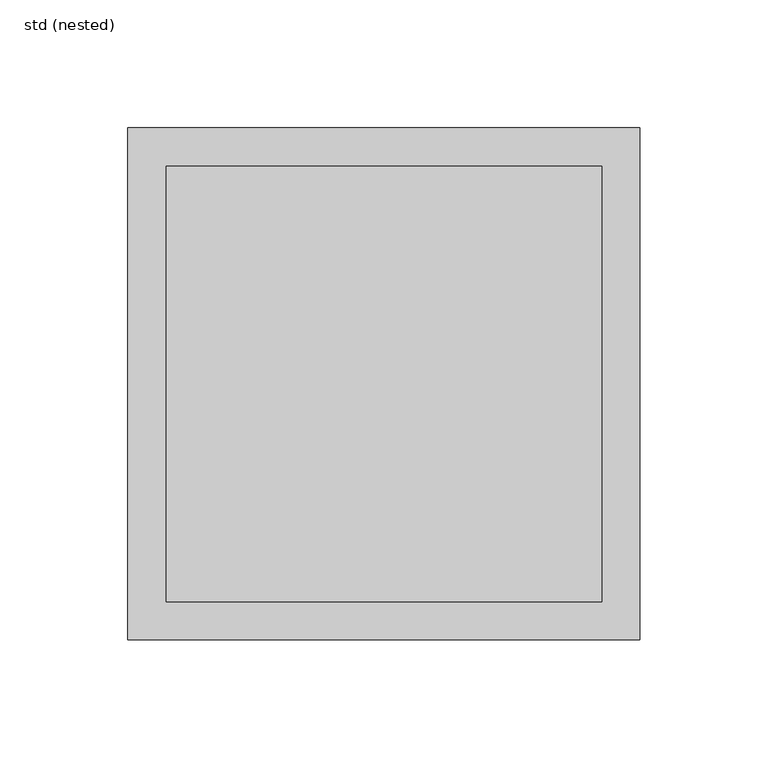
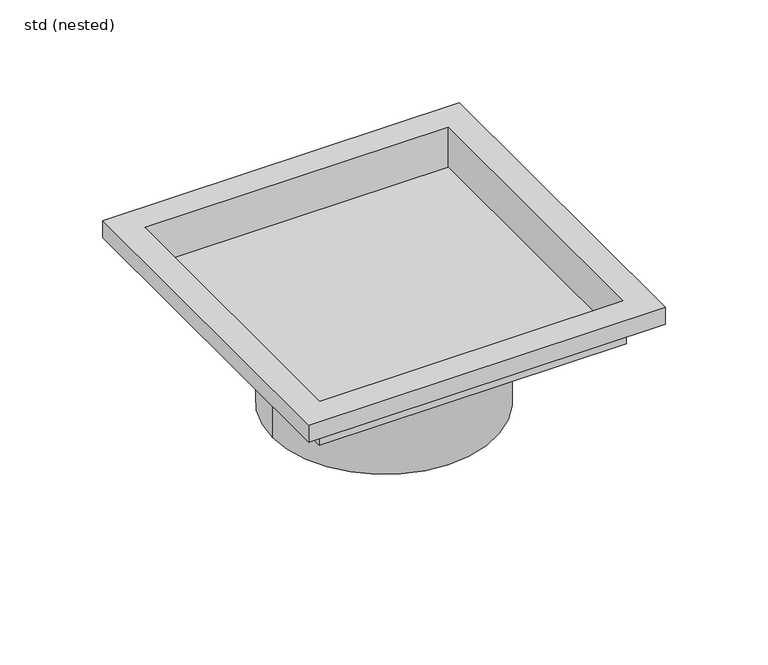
"""IFC4 building model written with IfcOpenShell, lengths in millimetres: sanitary terminal geometry, ZZZ_do not use_PF_ST_UN_telescopic gully top_ACO : std (nested)."""

from ifc_helpers import new_model, si_unit, frame, origin, place, context, project, spatial, polyline, circle_curve, faceted_brep, source, transform, mapped, element, save
from ifc_brep_helpers import plane_surface, cylinder_surface, revolved_surface, advanced_brep


def std_nested_b19227e2(model_context):
    return source(origin(), model_context, "Body", "SolidModel", [
        advanced_brep(
        [(-62.5, 0.0, -81.0), (62.5, 0.0, -81.0), (62.5, 0.0, -37.0), (-62.5, 0.0, -37.0), (-71.25, 0.0, -25.0), (71.25, 0.0, -25.0)],
        [
            (0, 1, circle_curve(frame((0.0, 0.0, -81.0), z_axis=(0.0, 0.0, -1.0), x_axis=(1.0, 0.0, 0.0)), 62.5)),
            (1, 0, circle_curve(frame((0.0, 0.0, -81.0), z_axis=(0.0, 0.0, -1.0), x_axis=(1.0, 0.0, 0.0)), 62.5)),
            (1, 2),
            (2, 3, circle_curve(frame((0.0, 0.0, -37.0), z_axis=(0.0, 0.0, -1.0), x_axis=(1.0, 0.0, 0.0)), 62.5)),
            (3, 0),
            (3, 2, circle_curve(frame((0.0, 0.0, -37.0), z_axis=(0.0, 0.0, -1.0), x_axis=(1.0, 0.0, 0.0)), 62.5)),
            (4, 5, circle_curve(frame((0.0, 0.0, -25.0), z_axis=(0.0, 0.0, 1.0), x_axis=(1.0, 0.0, 0.0)), 71.25)),
            (5, 4, circle_curve(frame((0.0, 0.0, -25.0), z_axis=(0.0, 0.0, 1.0), x_axis=(-1.0, 0.0, 0.0)), 71.25)),
            (4, 3),
            (2, 5),
        ],
        [
            plane_surface(frame((62.5, 0.0, -81.0), z_axis=(0.0, 0.0, -1.0), x_axis=(0.0, -1.0, 0.0))),
            cylinder_surface(frame((0.0, 0.0, -81.0), z_axis=(0.0, 0.0, 1.0), x_axis=(1.0, 0.0, 0.0)), 62.5),
            plane_surface(frame((0.0, 0.0, -25.0), z_axis=(0.0, 0.0, 1.0), x_axis=(0.0, -1.0, 0.0))),
            revolved_surface(polyline([(62.49999999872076, 0.0, -37.0), (71.25, 0.0, -25.0)]), (0.0, 0.0, -122.7142857), (0.0, 0.0, 1.0)),
            revolved_surface(polyline([(-62.49999999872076, 0.0, -37.0), (-71.25, 0.0, -25.0)]), (0.0, 0.0, -122.7142857), (0.0, 0.0, 1.0)),
        ],
        [
            (0, [[1, 2]]),
            (1, [[-2, 3, 4, 5]]),
            (1, [[-1, -5, 6, -3]]),
            (2, [[7, 8]]),
            (3, [[-7, 9, -4, 10]]),
            (4, [[-8, -10, -6, -9]]),
        ],
    ),
        faceted_brep([(86.25, 86.25, -25.0), (86.25, -86.25, -25.0), (-86.25, -86.25, -25.0), (-86.25, 86.25, -25.0), (85.0, -85.0, -23.75), (85.0, 85.0, -23.75), (-85.0, 85.0, -23.75), (-85.0, -85.0, -23.75), (-86.25, 86.25, -10.0), (86.25, 86.25, -10.0), (-86.25, -86.25, -10.0), (86.25, -86.25, -10.0), (85.0, -85.0, 0.0), (85.0, 85.0, 0.0), (-85.0, -85.0, 0.0), (-85.0, 85.0, 0.0), (100.0, 100.0, -10.0), (100.0, -100.0, -10.0), (-100.0, -100.0, -10.0), (-100.0, 100.0, -10.0), (100.0, 100.0, 0.0), (-100.0, 100.0, 0.0), (-100.0, -100.0, 0.0), (100.0, -100.0, 0.0)], [[[0, 1, 2, 3]], [[4, 5, 6, 7]], [[0, 3, 8, 9]], [[3, 2, 10, 8]], [[2, 1, 11, 10]], [[1, 0, 9, 11]], [[5, 4, 12, 13]], [[12, 4, 7, 14]], [[14, 7, 6, 15]], [[5, 13, 15, 6]], [[16, 17, 18, 19], [9, 8, 10, 11]], [[20, 21, 22, 23], [13, 12, 14, 15]], [[16, 19, 21, 20]], [[19, 18, 22, 21]], [[18, 17, 23, 22]], [[17, 16, 20, 23]]]),
    ])


if __name__ == "__main__":
    model = new_model("IFC4")
    model_context = context("Model", 3, world=origin())
    ifc_project = project(units=[si_unit("LENGTHUNIT", "METRE", prefix="MILLI")], contexts=[model_context])
    site = spatial("IfcSite", under=ifc_project)
    building = spatial("IfcBuilding", under=site)
    placement = place(None, origin())
    std_nested_shape = std_nested_b19227e2(model_context)
    element("IfcSanitaryTerminal", 1, ObjectType="ZZZ_do not use_PF_ST_UN_telescopic gully top_ACO : std (nested)", at=placement, inside=building, context=model_context, shape_type="MappedRepresentation", body=[
        mapped(std_nested_shape, transform((0.0, 0.0, 0.0), x_axis=(1.0, 0.0, 0.0), y_axis=(0.0, 1.0, 0.0), z_axis=(0.0, 0.0, 1.0))),
    ])
    save(model, "model.ifc")
